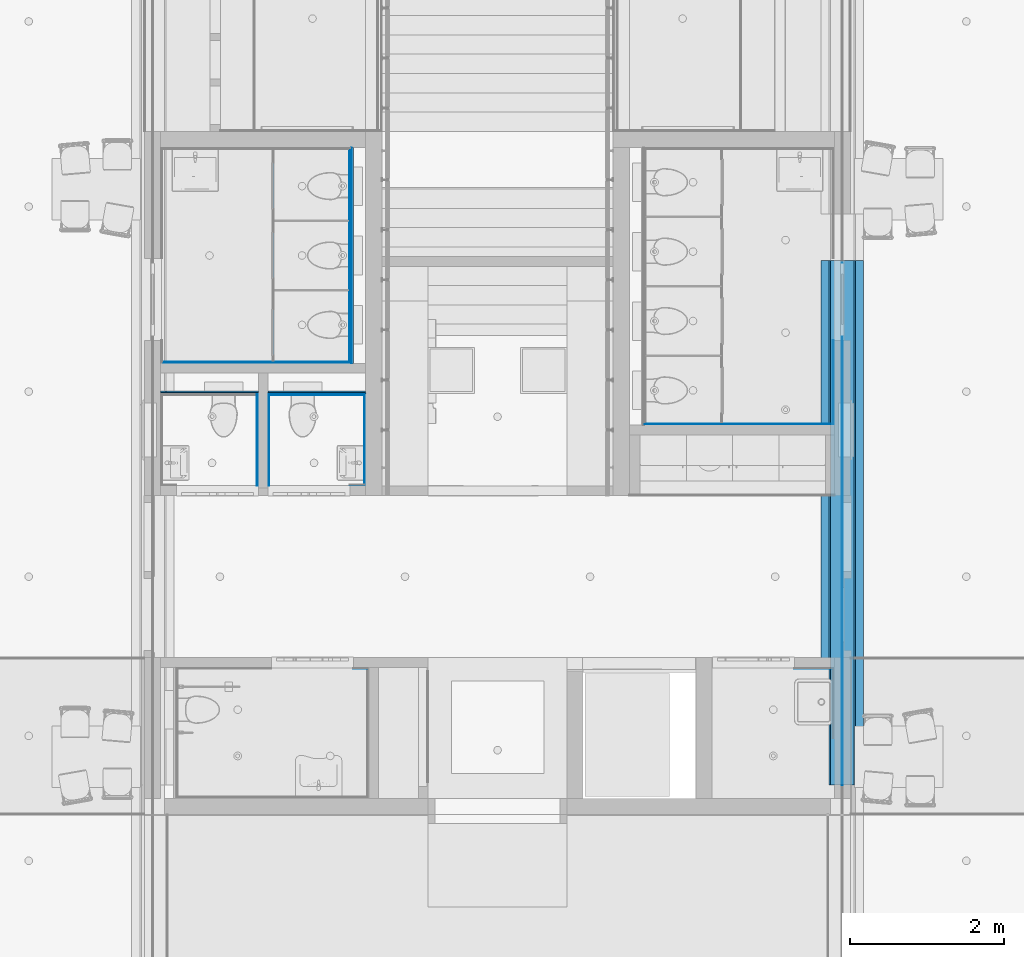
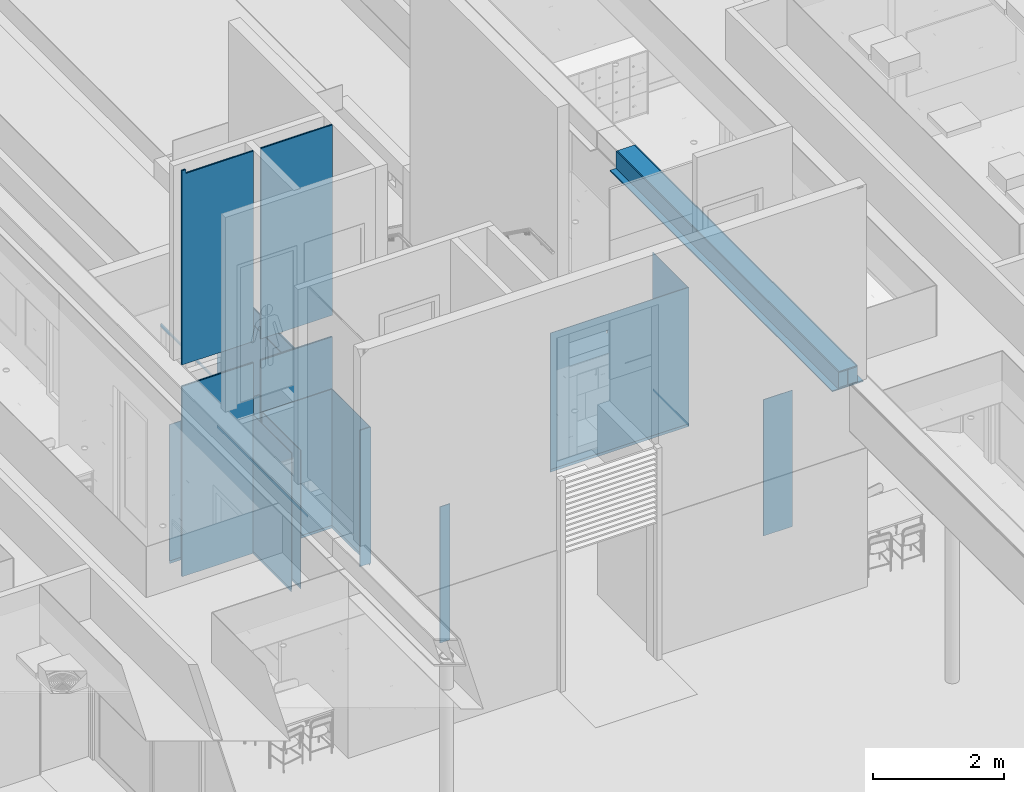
# One storey, part 118 of 347: 28 building element parts, 3 openings, 15 elements without a shape of their own, plus 1 element that does not belong to this part.
"""IFC2X3 building model written with IfcOpenShell, lengths in millimetres."""

from ifc_helpers import new_model, entity, si_unit, converted_unit, derived_unit, money_unit, direction, frame, origin_with_axes, place, context, subcontext, project, spatial, faceted_brep, material, type_object, element, aggregate, save


model = new_model("IFC2X3")

# Units and contexts
model_context = context("Model", 3, precision=0.01, world=origin_with_axes(), true_north=direction((0.0, 1.0)))
plan_context = context("Plan", 3, precision=0.01, world=origin_with_axes(), true_north=direction((0.0, 1.0)))
body_context = subcontext(model_context, "Body", "Model", "MODEL_VIEW")
ifc_project = project(units=[si_unit("LENGTHUNIT", "METRE", prefix="MILLI"), si_unit("AREAUNIT", "SQUARE_METRE"), si_unit("VOLUMEUNIT", "CUBIC_METRE"), converted_unit("PLANEANGLEUNIT", "DEGREE", entity("IfcPlaneAngleMeasure", 0.0174532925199), si_unit("PLANEANGLEUNIT", "RADIAN"), dimensions=[0, 0, 0, 0, 0, 0, 0]), money_unit("EUR"), converted_unit("TIMEUNIT", "Year", entity("IfcTimeMeasure", 31556926.0), si_unit("TIMEUNIT", "SECOND"), dimensions=[0, 0, 1, 0, 0, 0, 0]), si_unit("MASSUNIT", "GRAM", prefix="KILO"), si_unit("THERMODYNAMICTEMPERATUREUNIT", "DEGREE_CELSIUS"), si_unit("LUMINOUSINTENSITYUNIT", "LUMEN"), si_unit("ENERGYUNIT", "JOULE", prefix="MEGA"), derived_unit("THERMALCONDUCTANCEUNIT", [(si_unit("POWERUNIT", "WATT"), 1), (si_unit("LENGTHUNIT", "METRE"), -1), (si_unit("THERMODYNAMICTEMPERATUREUNIT", "KELVIN"), -1)]), derived_unit("SPECIFICHEATCAPACITYUNIT", [(si_unit("ENERGYUNIT", "JOULE"), 1), (si_unit("MASSUNIT", "GRAM", prefix="KILO"), -1), (si_unit("THERMODYNAMICTEMPERATUREUNIT", "KELVIN"), -1)]), derived_unit("MASSDENSITYUNIT", [(si_unit("MASSUNIT", "GRAM", prefix="KILO"), 1), (si_unit("VOLUMEUNIT", "CUBIC_METRE"), -1)])], contexts=[model_context, plan_context])

# Site, building, storey
site_placement = place(None, origin_with_axes())
site = spatial("IfcSite", under=ifc_project, at=site_placement, Name="Site", CompositionType="ELEMENT")
building_placement = place(site_placement, origin_with_axes())
building = spatial("IfcBuilding", under=site, at=building_placement, Name="Naam gebouw", CompositionType="ELEMENT")
storey_placement = place(building_placement, origin_with_axes())
storey = spatial("IfcBuildingStorey", under=building, at=storey_placement, Name="begane grond", CompositionType="ELEMENT", Elevation=0.0)

# Wall, building element parts
wall_type_1 = type_object("IfcWallType", Name="ALG LSW sanitair 100", PredefinedType="NOTDEFINED")
wall_1_placement = place(storey_placement, frame((35705.0, 31399.9999277, 0.0), z_axis=(0.0, 0.0, 1.0), x_axis=(1.0, 0.0, 0.0)))
wall_1 = element("IfcWall", 1, at=wall_1_placement, inside=storey, type_object=wall_type_1, Name="21_GF 100 ECO RD V/75.2.A")
ifc_material_1 = material(Name="Hout - Multiplex wbp")
building_element_part_1_placement = place(wall_1_placement, origin_with_axes())
building_element_part_1 = element("IfcBuildingElementPart", 2, at=building_element_part_1_placement, material=ifc_material_1, Name="Hout - Multiplex wbp", context=body_context, shape_type="Brep", body=[
    faceted_brep([(0.0, 30.0, 3560.0), (1267.5, 30.0, 3560.0), (1267.5, 30.0, 0.0), (0.0, 30.0, 0.0), (1267.5, 12.0, 3560.0), (0.0, 12.0, 3560.0), (1267.5, 12.0, 0.0), (0.0, 12.0, 0.0)], [[[0, 1, 2, 3]], [[4, 1, 0, 5]], [[1, 4, 6, 2]], [[6, 7, 3, 2]], [[5, 0, 3, 7]], [[4, 5, 7, 6]]]),
    faceted_brep([(1392.5, 30.0, 3560.0), (2660.0, 30.0, 3560.0), (2660.0, 30.0, 0.0), (1392.5, 30.0, 0.0), (2660.0, 12.0, 3560.0), (1392.5, 12.0, 3560.0), (2660.0, 12.0, 0.0), (1392.5, 12.0, 0.0)], [[[0, 1, 2, 3]], [[4, 1, 0, 5]], [[1, 4, 6, 2]], [[6, 7, 3, 2]], [[5, 0, 3, 7]], [[4, 5, 7, 6]]]),
    faceted_brep([(1267.5, 12.0, 3960.0), (1267.5, 30.0, 3960.0), (1267.5, 30.0, 7520.0), (1267.5, 12.0, 7520.0), (0.0, 30.0, 3960.0), (0.0, 12.0, 3960.0), (0.0, 30.0, 7590.0), (70.0001353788, 30.0, 7590.0), (70.0001353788, 30.0, 7520.0), (70.0001355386, 12.0, 7520.0), (70.0001355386, 12.0, 7590.0), (0.0, 12.0, 7590.0)], [[[0, 1, 2, 3]], [[4, 1, 0, 5]], [[1, 4, 6, 7, 8, 2]], [[3, 2, 8, 9]], [[5, 0, 3, 9, 10, 11]], [[4, 5, 11, 6]], [[10, 7, 6, 11]], [[8, 7, 10, 9]]]),
    faceted_brep([(2660.0, 12.0, 3960.0), (2660.0, 30.0, 3960.0), (2660.0, 30.0, 7520.0), (2660.0, 12.0, 7520.0), (1392.5, 30.0, 3960.0), (1392.5, 12.0, 3960.0), (1392.5, 30.0, 7520.0), (1392.5, 12.0, 7520.0)], [[[0, 1, 2, 3]], [[4, 1, 0, 5]], [[1, 4, 6, 2]], [[3, 2, 6, 7]], [[5, 0, 3, 7]], [[4, 5, 7, 6]]]),
])
ifc_material_2 = material(Name="ALG - LICHTE SCHEIDINGSWAND AFW")
building_element_part_2_placement = place(wall_1_placement, origin_with_axes())
building_element_part_2 = element("IfcBuildingElementPart", 3, at=building_element_part_2_placement, material=ifc_material_2, Name="ALG - LICHTE SCHEIDINGSWAND AFW", context=body_context, shape_type="Brep", body=[
    faceted_brep([(0.0, 12.0, 3560.0), (1267.5, 12.0, 3560.0), (1267.5, 12.0, 0.0), (0.0, 12.0, 0.0), (1267.5, 0.0, 3560.0), (0.0, 0.0, 3560.0), (1267.5, 0.0, 0.0), (0.0, 0.0, 0.0)], [[[0, 1, 2, 3]], [[4, 1, 0, 5]], [[1, 4, 6, 2]], [[6, 7, 3, 2]], [[5, 0, 3, 7]], [[4, 5, 7, 6]]]),
    faceted_brep([(1392.5, 12.0, 3560.0), (2660.0, 12.0, 3560.0), (2660.0, 12.0, 0.0), (1392.5, 12.0, 0.0), (2660.0, 0.0, 3560.0), (1392.5, 0.0, 3560.0), (2660.0, 0.0, 0.0), (1392.5, 0.0, 0.0)], [[[0, 1, 2, 3]], [[4, 1, 0, 5]], [[1, 4, 6, 2]], [[6, 7, 3, 2]], [[5, 0, 3, 7]], [[4, 5, 7, 6]]]),
    faceted_brep([(1267.5, 0.0, 3960.0), (1267.5, 12.0, 3960.0), (1267.5, 12.0, 7520.0), (1267.5, 0.0, 7520.0), (0.0, 12.0, 3960.0), (0.0, 0.0, 3960.0), (0.0, 12.0, 7590.0), (70.0001355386, 12.0, 7590.0), (70.0001355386, 12.0, 7520.0), (70.0001356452, 0.0, 7520.0), (70.0001356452, 0.0, 7590.0), (0.0, 0.0, 7590.0), (0.0, 0.0, 7520.0)], [[[0, 1, 2, 3]], [[4, 1, 0, 5]], [[1, 4, 6, 7, 8, 2]], [[3, 2, 8, 9]], [[5, 0, 3, 9, 10, 11, 12]], [[4, 5, 12, 11, 6]], [[10, 7, 6, 11]], [[8, 7, 10, 9]]]),
    faceted_brep([(2660.0, 0.0, 3960.0), (2660.0, 12.0, 3960.0), (2660.0, 12.0, 7520.0), (2660.0, 0.0, 7520.0), (1392.5, 12.0, 3960.0), (1392.5, 0.0, 3960.0), (1392.5, 12.0, 7520.0), (1392.5, 0.0, 7520.0)], [[[0, 1, 2, 3]], [[4, 1, 0, 5]], [[1, 4, 6, 2]], [[3, 2, 6, 7]], [[5, 0, 3, 7]], [[4, 5, 7, 6]]]),
])
aggregate(wall_1, [building_element_part_1, building_element_part_2])

# Proxy, building element part
building_element_proxy_type = type_object("IfcBuildingElementProxyType", Name="wandtegels 150x300 2600+ 10 x 2600", PredefinedType="NOTDEFINED")
proxy_1_placement = place(storey_placement, frame((43926.0, 27830.0, 0.0), z_axis=(0.0, 0.0, 1.0), x_axis=(1.0, 0.0, 0.0)))
proxy_1 = element("IfcBuildingElementProxy", 4, at=proxy_1_placement, inside=storey, type_object=building_element_proxy_type, Name="42_51 wandtegels keramisch")
ifc_material_3 = material(Name="Tegels - Wand")
building_element_part_3_placement = place(proxy_1_placement, origin_with_axes())
building_element_part_3 = element("IfcBuildingElementPart", 5, at=building_element_part_3_placement, material=ifc_material_3, Name="Tegels - Wand", context=body_context, shape_type="Brep", body=[
    faceted_brep([(508.99999702, 0.0, 2600.0), (508.99999702, 10.0, 2600.0), (0.0, 10.0, 2600.0), (0.0, 0.0, 2600.0), (508.99999702, 10.0, 50.0000059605), (508.99999702, 0.0, 50.0000059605), (508.99999702, 8.00001490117, 50.0000059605), (0.0, 10.0, 50.0), (0.0, 0.0, 50.0), (0.0, 8.00001490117, 50.0000059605)], [[[0, 1, 2, 3]], [[4, 1, 0, 5, 6]], [[1, 4, 7, 2]], [[8, 3, 2, 7, 9]], [[5, 0, 3, 8]], [[6, 5, 8, 9]], [[4, 6, 9, 7]]]),
])
aggregate(proxy_1, [building_element_part_3])

# Proxy, building element parts
proxy_2_placement = place(storey_placement, frame((44425.0000972, 31009.999928, 0.0), z_axis=(0.0, 0.0, 1.0), x_axis=(-1.0, 6.40097222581e-09, 0.0)))
proxy_2 = element("IfcBuildingElementProxy", 6, at=proxy_2_placement, inside=storey, type_object=building_element_proxy_type, Name="42_45 wandtegels keramisch")
ifc_material_4 = material(Name="48 vloeivloer Bolidt")
building_element_part_4_placement = place(proxy_2_placement, origin_with_axes())
building_element_part_4 = element("IfcBuildingElementPart", 7, at=building_element_part_4_placement, material=ifc_material_4, Name="48 vloeivloer Bolidt", context=body_context, shape_type="Brep", body=[
    faceted_brep([(-9.99999708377, 10.0000088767, 50.0000059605), (-9.99999707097, 8.00001483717, 50.0000059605), (2440.00009416, 8.00003051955, 50.0000059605), (2440.00009415, 10.0000245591, 50.0000059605), (-9.99999707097, 8.00001483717, 0.0), (-9.99999708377, 10.0000088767, 0.0), (2440.00009416, 8.00003051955, 0.0), (2440.00009415, 10.0000245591, 0.0)], [[[0, 1, 2, 3]], [[4, 1, 0, 5]], [[1, 4, 6, 2]], [[2, 6, 7, 3]], [[5, 0, 3, 7]], [[4, 5, 7, 6]]]),
])
building_element_part_5_placement = place(proxy_2_placement, origin_with_axes())
building_element_part_5 = element("IfcBuildingElementPart", 8, at=building_element_part_5_placement, material=ifc_material_3, Name="Tegels - Wand", context=body_context, shape_type="Brep", body=[
    faceted_brep([(2440.00009415, 10.0000156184, 50.0000059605), (-9.99999708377, 9.99999993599, 50.0000059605), (-9.99999708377, 9.99999993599, 2600.0), (2440.00009415, 10.0000156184, 2600.0), (1450.00000979, 10.0000092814, 2250.0), (1450.00000979, 10.0000092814, 2300.0), (1430.00000979, 10.0000091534, 2300.0), (1430.00000979, 10.0000091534, 2250.0), (1433.50001352, 10.0000091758, 2249.99999255), (1446.50000905, 10.000009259, 2249.99999255), (2440.00009416, 8.00003051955, 50.0000059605), (-9.99999707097, 8.00001483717, 50.0000059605), (-9.99999701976, -6.40092423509e-08, 50.0000059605), (-9.99999701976, -6.40092423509e-08, 2600.0), (2440.00009421, 1.56183723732e-05, 2600.0), (2440.00009421, 1.56183723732e-05, 50.0000059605), (1450.00000985, 9.28141119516e-06, 2250.0), (1450.00000985, 9.28141119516e-06, 2300.0), (1430.00000985, 9.15339271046e-06, 2300.0), (1430.00000985, 9.15339271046e-06, 2250.0), (1433.50001358, 9.17579612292e-06, 2249.99999255), (1446.50000911, 9.2590077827e-06, 2249.99999255)], [[[0, 1, 2, 3], [4, 5, 6, 7, 8, 9]], [[10, 11, 1, 0]], [[11, 12, 13, 2, 1]], [[3, 2, 13, 14]], [[0, 3, 14, 15, 10]], [[16, 17, 5, 4]], [[17, 18, 6, 5]], [[18, 19, 7, 6]], [[19, 20, 8, 7]], [[20, 21, 9, 8]], [[21, 16, 4, 9]], [[15, 12, 11, 10]], [[14, 13, 12, 15], [20, 19, 18, 17, 16, 21]]]),
])
aggregate(proxy_2, [building_element_part_4, building_element_part_5])

proxy_3_placement = place(storey_placement, frame((44425.0000972, 32089.9999277, 0.0), z_axis=(0.0, 0.0, 1.0), x_axis=(0.0, -1.0, 0.0)))
proxy_3 = element("IfcBuildingElementProxy", 9, at=proxy_3_placement, inside=storey, type_object=building_element_proxy_type, Name="42_44 wandtegels keramisch")
building_element_part_6_placement = place(proxy_3_placement, origin_with_axes())
building_element_part_6 = element("IfcBuildingElementPart", 10, at=building_element_part_6_placement, material=ifc_material_4, Name="48 vloeivloer Bolidt", context=body_context, shape_type="Brep", body=[
    faceted_brep([(1088.00001458, 8.00001490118, 50.0000059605), (1088.00001458, 10.0000089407, 50.0000059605), (0.0, 10.0000089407, 50.0000059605), (0.0, 8.00001490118, 50.0000059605), (1088.00001458, 10.0000089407, 0.0), (1088.00001458, 8.00001490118, 0.0), (0.0, 10.0000089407, 0.0), (0.0, 8.00001490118, 0.0)], [[[0, 1, 2, 3]], [[4, 1, 0, 5]], [[1, 4, 6, 2]], [[3, 2, 6, 7]], [[5, 0, 3, 7]], [[4, 5, 7, 6]]]),
])
building_element_part_7_placement = place(proxy_3_placement, origin_with_axes())
building_element_part_7 = element("IfcBuildingElementPart", 11, at=building_element_part_7_placement, material=ifc_material_3, Name="Tegels - Wand", context=body_context, shape_type="Brep", body=[
    faceted_brep([(1079.99999968, 0.0, 2600.0), (1079.99999968, 10.0, 2600.0), (0.0, 10.0, 2600.0), (0.0, 0.0, 2600.0), (1079.99999968, 10.0, 50.0), (1079.99999968, 0.0, 50.0), (1079.99999968, 8.00001490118, 50.0), (0.0, 10.0, 50.0), (0.0, 8.00001490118, 50.0000059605), (0.0, 0.0, 50.0)], [[[0, 1, 2, 3]], [[4, 1, 0, 5, 6]], [[1, 4, 7, 2]], [[8, 9, 3, 2, 7]], [[5, 0, 3, 9]], [[6, 5, 9, 8]], [[4, 6, 8, 7]]]),
])
aggregate(proxy_3, [building_element_part_6, building_element_part_7])

proxy_4_placement = place(storey_placement, frame((38155.0, 31809.9999435, 0.0), z_axis=(0.0, 0.0, 1.0), x_axis=(0.0, 1.0, 0.0)))
proxy_4 = element("IfcBuildingElementProxy", 12, at=proxy_4_placement, inside=storey, type_object=building_element_proxy_type, Name="42_46 wandtegels keramisch")
building_element_part_8_placement = place(proxy_4_placement, origin_with_axes())
building_element_part_8 = element("IfcBuildingElementPart", 13, at=building_element_part_8_placement, material=ifc_material_3, Name="Tegels - Wand", context=body_context, shape_type="Brep", body=[
    faceted_brep([(-1.55543631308e-05, 0.0, 2600.0), (-1.55543631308e-05, -10.0, 2600.0), (2770.00007629, -10.0, 2600.0), (2770.00007629, 0.0, 2600.0), (-1.55543631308e-05, -10.0, 50.0), (-1.55543631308e-05, 0.0, 50.0), (-1.55543631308e-05, -8.00001490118, 50.0), (2770.00007629, -10.0, 50.0000059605), (2770.00007629, 0.0, 50.0000059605), (2770.00007629, -8.00001490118, 50.0000059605)], [[[0, 1, 2, 3]], [[4, 1, 0, 5, 6]], [[1, 4, 7, 2]], [[8, 3, 2, 7, 9]], [[5, 0, 3, 8]], [[6, 5, 8, 9]], [[4, 6, 9, 7]]]),
])
building_element_part_9_placement = place(proxy_4_placement, origin_with_axes())
building_element_part_9 = element("IfcBuildingElementPart", 14, at=building_element_part_9_placement, material=ifc_material_4, Name="48 vloeivloer Bolidt", context=body_context, shape_type="Brep", body=[
    faceted_brep([(-8.00003045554, -8.00001490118, 50.0000059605), (-8.00003045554, -10.0000089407, 50.0000059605), (2770.00007629, -10.0000089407, 50.0000059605), (2770.00007629, -8.00001490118, 50.0000059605), (-8.00003045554, -10.0000089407, 0.0), (-8.00003045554, -8.00001490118, 0.0), (2770.00007629, -10.0000089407, 0.0), (2770.00007629, -8.00001490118, 0.0)], [[[0, 1, 2, 3]], [[4, 1, 0, 5]], [[1, 4, 6, 2]], [[3, 2, 6, 7]], [[5, 0, 3, 7]], [[4, 5, 7, 6]]]),
])
aggregate(proxy_4, [building_element_part_8, building_element_part_9])

# Proxy, building element part
proxy_5_placement = place(storey_placement, frame((38205.0000178, 27830.0, 0.0), z_axis=(0.0, 0.0, 1.0), x_axis=(1.0, 0.0, 0.0)))
proxy_5 = element("IfcBuildingElementProxy", 15, at=proxy_5_placement, inside=storey, type_object=building_element_proxy_type, Name="42_52 wandtegels keramisch")
building_element_part_10_placement = place(proxy_5_placement, origin_with_axes())
building_element_part_10 = element("IfcBuildingElementPart", 16, at=building_element_part_10_placement, material=ifc_material_3, Name="Tegels - Wand", context=body_context, shape_type="Brep", body=[
    faceted_brep([(179.999982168, 0.0, 2600.0), (179.999982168, 10.0, 2600.0), (0.0, 10.0, 2600.0), (0.0, 0.0, 2600.0), (179.999982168, 10.0, 50.0), (179.999982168, 0.0, 50.0), (179.999982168, 8.00001490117, 50.0), (0.0, 10.0, 50.0), (0.0, 8.00001490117, 50.0000059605), (0.0, 0.0, 50.0)], [[[0, 1, 2, 3]], [[4, 1, 0, 5, 6]], [[1, 4, 7, 2]], [[8, 9, 3, 2, 7]], [[5, 0, 3, 9]], [[6, 5, 9, 8]], [[4, 6, 8, 7]]]),
])
aggregate(proxy_5, [building_element_part_10])

# Proxy, building element parts
proxy_6_placement = place(storey_placement, frame((37107.5, 31389.9999277, 0.0), z_axis=(0.0, 0.0, 1.0), x_axis=(0.0, -1.0, 0.0)))
proxy_6 = element("IfcBuildingElementProxy", 17, at=proxy_6_placement, inside=storey, type_object=building_element_proxy_type, Name="42_51 wandtegels keramisch")
building_element_part_11_placement = place(proxy_6_placement, origin_with_axes())
building_element_part_11 = element("IfcBuildingElementPart", 18, at=building_element_part_11_placement, material=ifc_material_4, Name="48 vloeivloer Bolidt", context=body_context, shape_type="Brep", body=[
    faceted_brep([(10.0000089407, 10.0000089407, 0.0), (10.0000089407, 10.0000089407, 50.0000059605), (1183.0, 10.0000089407, 50.0000059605), (1183.0, 10.0000089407, 0.0), (10.0000089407, 8.00001490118, 50.0000059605), (10.0000089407, 8.00001490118, 0.0), (1183.0, 8.00001490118, 50.0000059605), (1183.0, 8.00001490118, 0.0)], [[[0, 1, 2, 3]], [[4, 1, 0, 5]], [[1, 4, 6, 2]], [[6, 7, 3, 2]], [[5, 0, 3, 7]], [[4, 5, 7, 6]]]),
])
building_element_part_12_placement = place(proxy_6_placement, origin_with_axes())
building_element_part_12 = element("IfcBuildingElementPart", 19, at=building_element_part_12_placement, material=ifc_material_3, Name="Tegels - Wand", context=body_context, shape_type="Brep", body=[
    faceted_brep([(10.0, 10.0, 50.0), (10.0, 10.0, 2600.0), (1183.0, 10.0, 2600.0), (1183.0, 10.0, 50.0), (10.0, 0.0, 2600.0), (10.0, 8.00001490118, 50.0), (10.0, 0.0, 50.0), (1183.0, 0.0, 2600.0), (1183.0, 0.0, 50.0), (1183.0, 8.00001490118, 50.0000059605)], [[[0, 1, 2, 3]], [[4, 1, 0, 5, 6]], [[1, 4, 7, 2]], [[3, 2, 7, 8, 9]], [[5, 0, 3, 9]], [[6, 5, 9, 8]], [[4, 6, 8, 7]]]),
])
aggregate(proxy_6, [building_element_part_11, building_element_part_12])

proxy_7_placement = place(storey_placement, frame((38355.0, 31389.9999277, 0.0), z_axis=(0.0, 0.0, 1.0), x_axis=(-1.0, 0.0, 0.0)))
proxy_7 = element("IfcBuildingElementProxy", 20, at=proxy_7_placement, inside=storey, type_object=building_element_proxy_type, Name="42_50 wandtegels keramisch")
building_element_part_13_placement = place(proxy_7_placement, origin_with_axes())
building_element_part_13 = element("IfcBuildingElementPart", 21, at=building_element_part_13_placement, material=ifc_material_4, Name="48 vloeivloer Bolidt", context=body_context, shape_type="Brep", body=[
    faceted_brep([(10.0000089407, 10.0000089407, 50.0000059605), (10.0000089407, 8.00001490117, 50.0000059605), (1239.49999702, 8.00001490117, 50.0000059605), (1239.49999702, 10.0000089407, 50.0000059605), (10.0000089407, 8.00001490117, 0.0), (10.0000089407, 10.0000089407, 0.0), (1239.49999702, 8.00001490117, 0.0), (1239.49999702, 10.0000089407, 0.0)], [[[0, 1, 2, 3]], [[4, 1, 0, 5]], [[1, 4, 6, 2]], [[7, 3, 2, 6]], [[5, 0, 3, 7]], [[4, 5, 7, 6]]]),
])
building_element_part_14_placement = place(proxy_7_placement, origin_with_axes())
building_element_part_14 = element("IfcBuildingElementPart", 22, at=building_element_part_14_placement, material=ifc_material_3, Name="Tegels - Wand", context=body_context, shape_type="Brep", body=[
    faceted_brep([(10.0, 10.0, 2600.0), (10.0, 0.0, 2600.0), (1247.50001192, 0.0, 2600.0), (1247.50001192, 10.0, 2600.0), (10.0, 0.0, 50.0), (10.0, 10.0, 50.0), (10.0, 8.00001490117, 50.0), (1247.50001192, 0.0, 50.0000059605), (1247.50001192, 10.0, 50.0000059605), (1247.50001192, 8.00001490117, 50.0000059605)], [[[0, 1, 2, 3]], [[4, 1, 0, 5, 6]], [[1, 4, 7, 2]], [[8, 3, 2, 7, 9]], [[5, 0, 3, 8]], [[6, 5, 8, 9]], [[4, 6, 9, 7]]]),
])
aggregate(proxy_7, [building_element_part_13, building_element_part_14])

proxy_8_placement = place(storey_placement, frame((38355.0, 30209.9999277, 0.0), z_axis=(0.0, 0.0, 1.0), x_axis=(0.0, 1.0, 0.0)))
proxy_8 = element("IfcBuildingElementProxy", 23, at=proxy_8_placement, inside=storey, type_object=building_element_proxy_type, Name="42_49 wandtegels keramisch")
building_element_part_15_placement = place(proxy_8_placement, origin_with_axes())
building_element_part_15 = element("IfcBuildingElementPart", 24, at=building_element_part_15_placement, material=ifc_material_4, Name="48 vloeivloer Bolidt", context=body_context, shape_type="Brep", body=[
    faceted_brep([(10.0000089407, 10.0000089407, 50.0000059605), (10.0000089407, 8.00001490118, 50.0000059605), (1171.99999702, 8.00001490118, 50.0000059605), (1171.99999702, 10.0000089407, 50.0000059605), (10.0000089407, 8.00001490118, 0.0), (10.0000089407, 10.0000089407, 0.0), (1171.99999702, 8.00001490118, 0.0), (1171.99999702, 10.0000089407, 0.0)], [[[0, 1, 2, 3]], [[4, 1, 0, 5]], [[1, 4, 6, 2]], [[7, 3, 2, 6]], [[5, 0, 3, 7]], [[4, 5, 7, 6]]]),
])
building_element_part_16_placement = place(proxy_8_placement, origin_with_axes())
building_element_part_16 = element("IfcBuildingElementPart", 25, at=building_element_part_16_placement, material=ifc_material_3, Name="Tegels - Wand", context=body_context, shape_type="Brep", body=[
    faceted_brep([(10.0, 10.0, 2600.0), (10.0, 0.0, 2600.0), (1180.00001192, 0.0, 2600.0), (1180.00001192, 10.0, 2600.0), (10.0, 0.0, 50.0), (10.0, 10.0, 50.0), (10.0, 8.00001490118, 50.0), (1180.00001192, 0.0, 50.0000059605), (1180.00001192, 10.0, 50.0000059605), (1180.00001192, 8.00001490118, 50.0000059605)], [[[0, 1, 2, 3]], [[4, 1, 0, 5, 6]], [[1, 4, 7, 2]], [[8, 3, 2, 7, 9]], [[5, 0, 3, 8]], [[6, 5, 8, 9]], [[4, 6, 9, 7]]]),
])
aggregate(proxy_8, [building_element_part_15, building_element_part_16])

# Proxy, building element part
proxy_9_placement = place(storey_placement, frame((38161.5, 30209.9999277, 0.0), z_axis=(0.0, 0.0, 1.0), x_axis=(1.0, 0.0, 0.0)))
proxy_9 = element("IfcBuildingElementProxy", 26, at=proxy_9_placement, inside=storey, type_object=building_element_proxy_type, Name="42_48 wandtegels keramisch")
building_element_part_17_placement = place(proxy_9_placement, origin_with_axes())
building_element_part_17 = element("IfcBuildingElementPart", 27, at=building_element_part_17_placement, material=ifc_material_3, Name="Tegels - Wand", context=body_context, shape_type="Brep", body=[
    faceted_brep([(193.500011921, 0.0, 2600.0), (193.500011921, 10.0, 2600.0), (0.0, 10.0, 2600.0), (0.0, 0.0, 2600.0), (193.500011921, 10.0, 50.0000059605), (193.500011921, 0.0, 50.0000059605), (193.500011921, 8.00001490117, 50.0000059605), (0.0, 10.0, 50.0), (0.0, 0.0, 50.0), (0.0, 8.00001490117, 50.0000059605)], [[[0, 1, 2, 3]], [[4, 1, 0, 5, 6]], [[1, 4, 7, 2]], [[8, 3, 2, 7, 9]], [[5, 0, 3, 8]], [[6, 5, 8, 9]], [[4, 6, 9, 7]]]),
])
aggregate(proxy_9, [building_element_part_17])

# Proxy, building element parts
proxy_10_placement = place(storey_placement, frame((36962.5, 30206.9999277, 0.0), z_axis=(0.0, 0.0, 1.0), x_axis=(0.0, 1.0, 0.0)))
proxy_10 = element("IfcBuildingElementProxy", 28, at=proxy_10_placement, inside=storey, type_object=building_element_proxy_type, Name="42_48 wandtegels keramisch")
building_element_part_18_placement = place(proxy_10_placement, origin_with_axes())
building_element_part_18 = element("IfcBuildingElementPart", 29, at=building_element_part_18_placement, material=ifc_material_4, Name="48 vloeivloer Bolidt", context=body_context, shape_type="Brep", body=[
    faceted_brep([(1174.99999702, 8.00001490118, 0.0), (1174.99999702, 8.00001490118, 50.0000059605), (0.0, 8.00001490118, 50.0000059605), (0.0, 8.00001490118, 0.0), (1174.99999702, 10.0000089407, 50.0000059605), (1174.99999702, 10.0000089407, 0.0), (0.0, 10.0000089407, 50.0000059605), (0.0, 10.0000089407, 0.0)], [[[0, 1, 2, 3]], [[4, 1, 0, 5]], [[1, 4, 6, 2]], [[6, 7, 3, 2]], [[5, 0, 3, 7]], [[4, 5, 7, 6]]]),
])
building_element_part_19_placement = place(proxy_10_placement, origin_with_axes())
building_element_part_19 = element("IfcBuildingElementPart", 30, at=building_element_part_19_placement, material=ifc_material_3, Name="Tegels - Wand", context=body_context, shape_type="Brep", body=[
    faceted_brep([(1183.00001192, 0.0, 50.0000059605), (1183.00001192, 0.0, 2600.0), (0.0, 0.0, 2600.0), (0.0, 0.0, 50.0), (1183.00001192, 10.0, 2600.0), (1183.00001192, 8.00001490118, 50.0000059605), (1183.00001192, 10.0, 50.0000059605), (0.0, 10.0, 2600.0), (0.0, 10.0, 50.0), (0.0, 8.00001490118, 50.0000059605)], [[[0, 1, 2, 3]], [[4, 1, 0, 5, 6]], [[1, 4, 7, 2]], [[3, 2, 7, 8, 9]], [[5, 0, 3, 9]], [[6, 5, 9, 8]], [[4, 6, 8, 7]]]),
])
aggregate(proxy_10, [building_element_part_18, building_element_part_19])

# Wall, openings, building element part
wall_type_2 = type_object("IfcWallType", Name="74 Kupan wand 20 x 2150", PredefinedType="NOTDEFINED")
wall_2_placement = place(storey_placement, frame((37164.9999127, 34568.9999523, 0.0), z_axis=(0.0, 0.0, 1.0), x_axis=(0.0, -1.0, 0.0)))
wall_2 = element("IfcWall", 31, at=wall_2_placement, inside=storey, type_object=wall_type_2, Name="22_74 sanitaire wand")
opening_1_placement = place(wall_2_placement, frame((1379.0, 0.0, 150.0), z_axis=(0.0, 0.0, 1.0), x_axis=(1.0, 0.0, 0.0)))
element("IfcOpeningElement", 32, at=opening_1_placement, cuts=wall_2, Name="74_A.", context=body_context, shape_type="Brep", body=[
    faceted_brep([(300.0, -3.00000000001, 2100.0), (300.0, -3.00000000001, 0.0), (300.0, 26.4999992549, 0.0), (300.0, 26.4999992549, 2100.0), (-300.0, -3.00000000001, 2100.0), (-300.0, -3.00000000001, 0.0), (-300.0, 26.4999992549, 0.0), (-300.0, 26.4999992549, 2100.0)], [[[0, 1, 2, 3]], [[0, 4, 5, 1]], [[1, 5, 6, 2]], [[3, 2, 6, 7]], [[4, 0, 3, 7]], [[5, 4, 7, 6]]]),
    faceted_brep([(300.0, -3.00000000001, 0.0), (300.0, -3.00000000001, 2100.0), (300.0, -26.4999962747, 2100.0), (300.0, -26.4999962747, 0.0), (-300.0, -3.00000000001, 0.0), (-300.0, -3.00000000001, 2100.0), (-300.0, -26.4999962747, 2100.0), (-300.0, -26.4999962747, 0.0)], [[[0, 1, 2, 3]], [[0, 4, 5, 1]], [[1, 5, 6, 2]], [[3, 2, 6, 7]], [[4, 0, 3, 7]], [[5, 4, 7, 6]]]),
])
opening_2_placement = place(wall_2_placement, frame((2379.0, 0.0, 150.0), z_axis=(0.0, 0.0, 1.0), x_axis=(1.0, 0.0, 0.0)))
element("IfcOpeningElement", 33, at=opening_2_placement, cuts=wall_2, Name="74_A.", context=body_context, shape_type="Brep", body=[
    faceted_brep([(300.0, -3.00000000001, 2100.0), (300.0, -3.00000000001, 0.0), (300.0, 26.4999992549, 0.0), (300.0, 26.4999992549, 2100.0), (-300.0, -3.00000000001, 2100.0), (-300.0, -3.00000000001, 0.0), (-300.0, 26.4999992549, 0.0), (-300.0, 26.4999992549, 2100.0)], [[[0, 1, 2, 3]], [[0, 4, 5, 1]], [[1, 5, 6, 2]], [[3, 2, 6, 7]], [[4, 0, 3, 7]], [[5, 4, 7, 6]]]),
    faceted_brep([(300.0, -3.00000000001, 0.0), (300.0, -3.00000000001, 2100.0), (300.0, -26.4999962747, 2100.0), (300.0, -26.4999962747, 0.0), (-300.0, -3.00000000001, 0.0), (-300.0, -3.00000000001, 2100.0), (-300.0, -26.4999962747, 2100.0), (-300.0, -26.4999962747, 0.0)], [[[0, 1, 2, 3]], [[0, 4, 5, 1]], [[1, 5, 6, 2]], [[3, 2, 6, 7]], [[4, 0, 3, 7]], [[5, 4, 7, 6]]]),
])
opening_3_placement = place(wall_2_placement, frame((479.0, 0.0, 150.0), z_axis=(0.0, 0.0, 1.0), x_axis=(1.0, 0.0, 0.0)))
element("IfcOpeningElement", 34, at=opening_3_placement, cuts=wall_2, Name="74_A.", context=body_context, shape_type="Brep", body=[
    faceted_brep([(-300.0, 26.4999992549, 2100.0), (-300.0, 26.4999992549, 0.0), (-300.0, -3.00000000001, 0.0), (-300.0, -3.00000000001, 2100.0), (300.0, 26.4999992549, 2100.0), (300.0, 26.4999992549, 0.0), (300.0, -3.00000000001, 0.0), (300.0, -3.00000000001, 2100.0)], [[[0, 1, 2, 3]], [[0, 4, 5, 1]], [[1, 5, 6, 2]], [[3, 2, 6, 7]], [[4, 0, 3, 7]], [[5, 4, 7, 6]]]),
    faceted_brep([(-300.0, -26.4999962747, 0.0), (-300.0, -26.4999962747, 2100.0), (-300.0, -3.00000000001, 2100.0), (-300.0, -3.00000000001, 0.0), (300.0, -26.4999962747, 0.0), (300.0, -26.4999962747, 2100.0), (300.0, -3.00000000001, 2100.0), (300.0, -3.00000000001, 0.0)], [[[0, 1, 2, 3]], [[0, 4, 5, 1]], [[1, 5, 6, 2]], [[3, 2, 6, 7]], [[4, 0, 3, 7]], [[5, 4, 7, 6]]]),
])
ifc_material_5 = material(Name="Metaal - Aluminium")
building_element_part_20_placement = place(wall_2_placement, origin_with_axes())
building_element_part_20 = element("IfcBuildingElementPart", 35, at=building_element_part_20_placement, material=ifc_material_5, Name="Metaal - Aluminium", context=body_context, shape_type="Brep", body=[
    faceted_brep([(2758.0, 10.0, 2300.0), (2758.0, 10.0, 2250.0), (0.0, 10.0, 2250.0), (0.0, 10.0, 2300.0), (2758.0, -10.0, 2300.0), (2758.0, -10.0, 2250.0), (2758.0, -6.49999627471, 2249.99999255), (2758.0, 6.49999925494, 2249.99999255), (0.0, 6.49999925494, 2249.99999255), (0.0, -6.49999627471, 2249.99999255), (0.0, -10.0, 2250.0), (0.0, -10.0, 2300.0)], [[[0, 1, 2, 3]], [[0, 4, 5, 6, 7, 1]], [[1, 7, 8, 2]], [[3, 2, 8, 9, 10, 11]], [[4, 0, 3, 11]], [[5, 4, 11, 10]], [[6, 5, 10, 9]], [[7, 6, 9, 8]]]),
])
aggregate(wall_2, [building_element_part_20])

# Wall, building element parts
wall_3_placement = place(storey_placement, frame((38175.0, 31789.9999277, 0.0), z_axis=(0.0, 0.0, 1.0), x_axis=(0.0, 1.0, 0.0)))
wall_3 = element("IfcWall", 36, at=wall_3_placement, inside=storey, type_object=wall_type_1, Name="21_GF 100 ECO RD V/75.2.A")
building_element_part_21_placement = place(wall_3_placement, origin_with_axes())
building_element_part_21 = element("IfcBuildingElementPart", 37, at=building_element_part_21_placement, material=ifc_material_2, Name="ALG - LICHTE SCHEIDINGSWAND AFW", context=body_context, shape_type="Brep", body=[
    faceted_brep([(2800.00007235, 0.0, 2880.0), (0.0, 0.0, 2880.0), (0.0, -12.0, 2880.0), (2800.00007235, -12.0, 2880.0), (2800.00007235, 0.0, 0.0), (0.0, 0.0, 0.0), (0.0, -12.0, 0.0), (2800.00007235, -12.0, 0.0)], [[[0, 1, 2, 3]], [[4, 5, 1, 0]], [[2, 1, 5, 6]], [[3, 2, 6, 7]], [[3, 7, 4, 0]], [[7, 6, 5, 4]]]),
])
building_element_part_22_placement = place(wall_3_placement, origin_with_axes())
building_element_part_22 = element("IfcBuildingElementPart", 38, at=building_element_part_22_placement, material=ifc_material_1, Name="Hout - Multiplex wbp", context=body_context, shape_type="Brep", body=[
    faceted_brep([(2800.00007235, -12.0, 2880.0), (0.0, -12.0, 2880.0), (0.0, -30.0, 2880.0), (2800.00007235, -30.0, 2880.0), (2800.00007235, -12.0, 0.0), (0.0, -12.0, 0.0), (0.0, -30.0, 0.0), (2800.00007235, -30.0, 0.0)], [[[0, 1, 2, 3]], [[4, 5, 1, 0]], [[2, 1, 5, 6]], [[3, 2, 6, 7]], [[3, 7, 4, 0]], [[7, 6, 5, 4]]]),
])
aggregate(wall_3, [building_element_part_21, building_element_part_22])

# Proxy, building element parts
proxy_11_placement = place(storey_placement, frame((35724.9999028, 31809.999928, 0.0), z_axis=(0.0, 0.0, 1.0), x_axis=(1.0, 6.40097222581e-09, 0.0)))
proxy_11 = element("IfcBuildingElementProxy", 39, at=proxy_11_placement, inside=storey, type_object=building_element_proxy_type, Name="42_45 wandtegels keramisch")
building_element_part_23_placement = place(proxy_11_placement, origin_with_axes())
building_element_part_23 = element("IfcBuildingElementPart", 40, at=building_element_part_23_placement, material=ifc_material_3, Name="Tegels - Wand", context=body_context, shape_type="Brep", body=[
    faceted_brep([(-10.0000208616, 6.40092423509e-08, 50.0000059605), (-10.0000208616, 6.40092423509e-08, 2600.0), (2440.00011805, -1.56183723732e-05, 2600.0), (2440.00011805, -1.56183723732e-05, 50.0000059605), (-10.0000209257, -9.99999993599, 2600.0), (-10.0000209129, -8.00001483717, 50.0000059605), (-10.0000209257, -9.99999993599, 50.0000059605), (2440.00011799, -10.0000156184, 2600.0), (2440.00011799, -10.0000156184, 50.0000059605), (2440.000118, -8.00003051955, 50.0000059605)], [[[0, 1, 2, 3]], [[4, 1, 0, 5, 6]], [[1, 4, 7, 2]], [[3, 2, 7, 8, 9]], [[5, 0, 3, 9]], [[6, 5, 9, 8]], [[4, 6, 8, 7]]]),
])
building_element_part_24_placement = place(proxy_11_placement, origin_with_axes())
building_element_part_24 = element("IfcBuildingElementPart", 41, at=building_element_part_24_placement, material=ifc_material_4, Name="48 vloeivloer Bolidt", context=body_context, shape_type="Brep", body=[
    faceted_brep([(-10.0000209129, -8.00001483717, 0.0), (-10.0000209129, -8.00001483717, 50.0000059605), (2440.000118, -8.00003051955, 50.0000059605), (2440.000118, -8.00003051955, 0.0), (-10.0000209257, -10.0000088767, 0.0), (-10.0000209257, -10.0000088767, 50.0000059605), (2440.00011799, -10.0000245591, 50.0000059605), (2440.00011799, -10.0000245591, 0.0)], [[[0, 1, 2, 3]], [[1, 0, 4, 5]], [[1, 5, 6, 2]], [[3, 2, 6, 7]], [[4, 0, 3, 7]], [[5, 4, 7, 6]]]),
])
aggregate(proxy_11, [building_element_part_23, building_element_part_24])

# Beam, building element parts
beam_type = type_object("IfcBeamType", Name="28 SFBHE320B/S355 550 x 340", PredefinedType="BEAM")
beam_placement = place(storey_placement, frame((44545.0, 33125.0000242, 3560.0), z_axis=(0.0, 0.0, 1.0), x_axis=(-1.0, 0.0, 0.0)))
beam = element("IfcBeam", 42, at=beam_placement, inside=storey, type_object=beam_type, Name="28_Balk-x", ObjectType="BEAM")
ifc_material_6 = material(Name="Beton gewapend C vloer")
building_element_part_25_placement = place(beam_placement, origin_with_axes())
building_element_part_25 = element("IfcBuildingElementPart", 43, at=building_element_part_25_placement, material=ifc_material_6, Name="Beton gewapend C vloer", context=body_context, shape_type="Brep", body=[
    faceted_brep([(-170.0, 6805.00005701, 0.0), (-150.000002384, 6805.00005701, 0.0), (-150.000002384, 0.0, 0.0), (-170.0, 0.0, 0.0), (-170.0, 6805.00005701, 320.000002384), (-150.000002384, 6805.00005701, 320.000002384), (-150.000002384, 6805.00005701, 299.500001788), (-5.74999880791, 6805.00005701, 299.500001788), (-5.74999880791, 6805.00005701, 20.500000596), (-150.000002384, 6805.00005701, 20.500000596), (-150.000002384, 0.0, 20.500000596), (-5.74999880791, 0.0, 20.500000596), (-5.74999880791, 0.0, 299.500001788), (-150.000002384, 0.0, 299.500001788), (-150.000002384, 0.0, 320.000002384), (-170.0, 0.0, 320.000002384)], [[[0, 1, 2, 3]], [[0, 4, 5, 6, 7, 8, 9, 1]], [[1, 9, 10, 2]], [[3, 2, 10, 11, 12, 13, 14, 15]], [[4, 0, 3, 15]], [[5, 4, 15, 14]], [[6, 5, 14, 13]], [[7, 6, 13, 12]], [[8, 7, 12, 11]], [[9, 8, 11, 10]]]),
    faceted_brep([(5.74999880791, 6805.00005701, 299.500001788), (5.74999880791, 6805.00005701, 20.500000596), (5.74999880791, 0.0, 20.500000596), (5.74999880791, 0.0, 299.500001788), (150.000002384, 6805.00005701, 299.500001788), (150.000002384, 6805.00005701, 320.000002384), (170.0, 6805.00005701, 320.000002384), (170.0, 6805.00005701, 0.0), (150.000002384, 6805.00005701, 0.0), (150.000002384, 6805.00005701, 20.500000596), (150.000002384, 0.0, 20.500000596), (150.000002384, 0.0, 0.0), (170.0, 0.0, 0.0), (170.0, 0.0, 320.000002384), (150.000002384, 0.0, 320.000002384), (150.000002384, 0.0, 299.500001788)], [[[0, 1, 2, 3]], [[0, 4, 5, 6, 7, 8, 9, 1]], [[1, 9, 10, 2]], [[3, 2, 10, 11, 12, 13, 14, 15]], [[4, 0, 3, 15]], [[5, 4, 15, 14]], [[6, 5, 14, 13]], [[7, 6, 13, 12]], [[8, 7, 12, 11]], [[9, 8, 11, 10]]]),
])
ifc_material_7 = material(Name="Metaal - Staal C")
building_element_part_26_placement = place(beam_placement, origin_with_axes())
building_element_part_26 = element("IfcBuildingElementPart", 44, at=building_element_part_26_placement, material=ifc_material_7, Name="Metaal - Staal C", context=body_context, shape_type="Brep", body=[
    faceted_brep([(-150.0, 6805.00005701, 0.0), (150.0, 6805.00005701, 0.0), (150.0, 0.0, 0.0), (-150.0, 0.0, 0.0), (-150.0, 6805.00005701, 20.5), (150.0, 6805.00005701, 20.5), (150.0, 0.0, 20.5), (-150.0, 0.0, 20.5)], [[[0, 1, 2, 3]], [[0, 4, 5, 1]], [[1, 5, 6, 2]], [[3, 2, 6, 7]], [[4, 0, 3, 7]], [[5, 4, 7, 6]]]),
])
building_element_part_27_placement = place(beam_placement, origin_with_axes())
building_element_part_27 = element("IfcBuildingElementPart", 45, at=building_element_part_27_placement, material=ifc_material_7, Name="Metaal - Staal C", context=body_context, shape_type="Brep", body=[
    faceted_brep([(-5.75, 6805.00005701, 299.5), (-5.75, 6805.00005701, 20.5), (-5.75, 0.0, 20.5), (-5.75, 0.0, 299.5), (5.75, 6805.00005701, 299.5), (5.75, 6805.00005701, 20.5), (5.75, 0.0, 20.5), (5.75, 0.0, 299.5)], [[[0, 1, 2, 3]], [[0, 4, 5, 1]], [[1, 5, 6, 2]], [[3, 2, 6, 7]], [[4, 0, 3, 7]], [[5, 4, 7, 6]]]),
])
building_element_part_28_placement = place(beam_placement, origin_with_axes())
building_element_part_28 = element("IfcBuildingElementPart", 46, at=building_element_part_28_placement, material=ifc_material_7, Name="Metaal - Staal C", context=body_context, shape_type="Brep", body=[
    faceted_brep([(-150.0, 6805.00005701, 320.0), (-150.0, 6805.00005701, 299.5), (-150.0, 0.0, 299.5), (-150.0, 0.0, 320.0), (150.0, 6805.00005701, 320.0), (150.0, 6805.00005701, 299.5), (150.0, 0.0, 299.5), (150.0, 0.0, 320.0)], [[[0, 1, 2, 3]], [[0, 4, 5, 1]], [[1, 5, 6, 2]], [[3, 2, 6, 7]], [[4, 0, 3, 7]], [[5, 4, 7, 6]]]),
])
building_element_part_29_placement = place(beam_placement, origin_with_axes())
building_element_part_29 = element("IfcBuildingElementPart", 47, at=building_element_part_29_placement, material=ifc_material_7, Name="Metaal - Staal C", context=body_context, shape_type="Brep", body=[
    faceted_brep([(-275.0, 6805.00005701, 0.0), (-275.0, 6805.00005701, -20.0), (-275.0, 0.0, -20.0), (-275.0, 0.0, 0.0), (-170.0, 6805.00005701, 0.0), (170.0, 6805.00005701, 0.0), (275.0, 6805.00005701, 0.0), (275.0, 6805.00005701, -20.0), (275.0, 0.0, -20.0), (275.0, 0.0, 0.0), (170.0, 0.0, 0.0), (-170.0, 0.0, 0.0)], [[[0, 1, 2, 3]], [[0, 4, 5, 6, 7, 1]], [[1, 7, 8, 2]], [[3, 2, 8, 9, 10, 11]], [[4, 0, 3, 11]], [[5, 4, 11, 10]], [[6, 5, 10, 9]], [[7, 6, 9, 8]]]),
])
aggregate(beam, [building_element_part_25, building_element_part_26, building_element_part_27, building_element_part_28, building_element_part_29])

save(model, "model.ifc")
